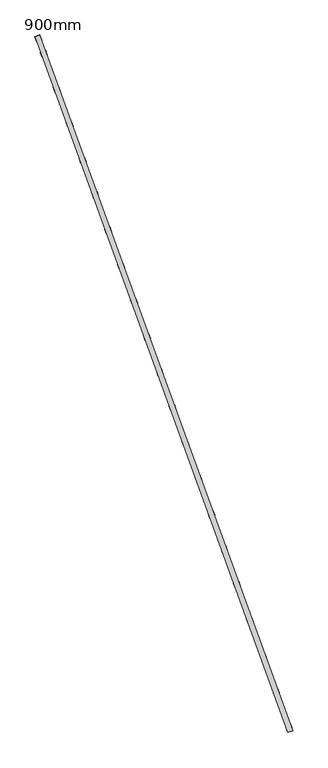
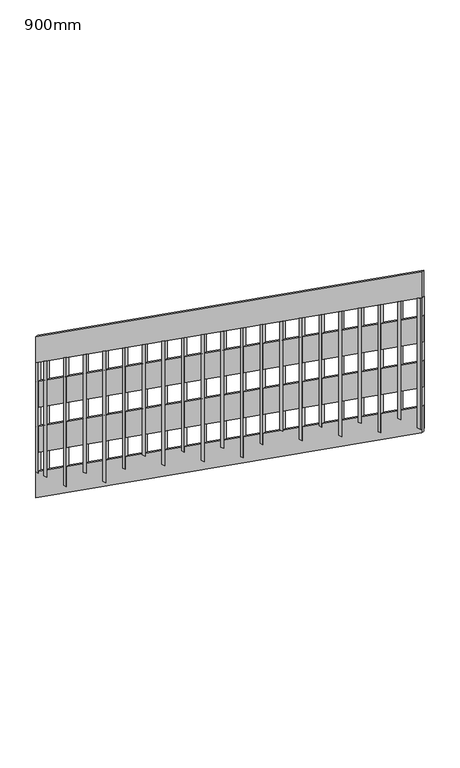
"""IFC4 building model written with IfcOpenShell, lengths in millimetres: railing geometry, 900mm."""

from ifc_helpers import new_model, si_unit, frame, origin, place, context, project, spatial, polyline, outline, extrude, source, transform, mapped, element, save


def railing_900mm_04ecc8fe(model_context):
    return source(origin(), model_context, "Body", "SweptSolid", [
        extrude(outline(polyline([(89.8763636, -148.0), (0.0, 0.0), (3217.3591656, 0.0), (3307.2355292, -147.9999999), (89.8763636, -148.0)])), frame((18723.4162084, 27110.1412206, 3308.6657613), z_axis=(0.9396926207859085, 0.3420201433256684, 0.0), x_axis=(0.29233770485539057, -0.8031912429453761, 0.519059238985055)), (0.0, 0.0, 1.0), 19.0),
        extrude(outline(polyline([(89.8763636, -148.0), (0.0, 0.0), (3217.3591656, 0.0), (3307.2355292, -147.9999999), (89.8763636, -148.0)])), frame((18723.4162084, 27110.1412206, 3008.6657613), z_axis=(0.9396926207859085, 0.3420201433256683, 0.0), x_axis=(0.2923377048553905, -0.803191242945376, 0.5190592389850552)), (0.0, 0.0, 1.0), 19.0),
        extrude(outline(polyline([(89.8763636, -148.0), (0.0, 0.0), (3217.3591656, 0.0), (3307.2355292, -147.9999999), (89.8763636, -148.0)])), frame((18723.4162084, 27110.1412206, 2708.6657613), z_axis=(0.9396926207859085, 0.3420201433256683, 0.0), x_axis=(0.2923377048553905, -0.803191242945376, 0.5190592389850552)), (0.0, 0.0, 1.0), 19.0),
        extrude(outline(polyline([(89.8763636, -148.0), (0.0, 0.0), (3217.3591656, 0.0), (3307.2355292, -147.9999999), (89.8763636, -148.0)])), frame((18723.4162084, 27110.1412206, 2408.6657613), z_axis=(0.9396926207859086, 0.3420201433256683, 0.0), x_axis=(0.2923377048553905, -0.803191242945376, 0.5190592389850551)), (0.0, 0.0, 1.0), 19.0),
        extrude(outline(polyline([(106.0727272, 0.0), (966.5203067, 0.0), (966.5203067, -20.0000001), (93.9272727, -20.0000001), (106.0727272, 0.0)])), frame((19653.241152, 24554.006282, 5066.5203067), z_axis=(0.9396926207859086, 0.34202014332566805, 0.0), x_axis=(0.0, 0.0, -1.0)), (0.0, 0.0, 1.0), 20.0),
        extrude(outline(polyline([(106.0727273, 0.0), (881.5021249, 0.0), (881.5021249, -20.0), (93.9272727, -20.0), (106.0727273, 0.0)])), frame((19605.3583319, 24685.5632489, 4981.5021249), z_axis=(0.9396926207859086, 0.34202014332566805, 0.0), x_axis=(0.0, 0.0, -1.0)), (0.0, 0.0, 1.0), 20.0),
        extrude(outline(polyline([(106.0727273, 0.0), (948.3021249, 0.0), (948.3021249, -20.0), (93.9272727, -20.0), (106.0727273, 0.0)])), frame((19557.4755118, 24817.1202158, 4896.4839431), z_axis=(0.9396926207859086, 0.34202014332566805, 0.0), x_axis=(0.0, 0.0, -1.0)), (0.0, 0.0, 1.0), 20.0),
        extrude(outline(polyline([(106.0727273, 0.0), (863.2839431, 0.0), (863.2839431, -20.0), (93.9272728, -20.0), (106.0727273, 0.0)])), frame((19509.5926918, 24948.6771827, 4811.4657613), z_axis=(0.9396926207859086, 0.34202014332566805, 0.0), x_axis=(0.0, 0.0, -1.0)), (0.0, 0.0, 1.0), 20.0),
        extrude(outline(polyline([(106.0727273, 0.0), (930.0839431, 0.0), (930.0839431, -20.0), (93.9272728, -20.0), (106.0727273, 0.0)])), frame((19461.7098717, 25080.2341496, 4726.4475795), z_axis=(0.9396926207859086, 0.34202014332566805, 0.0), x_axis=(0.0, 0.0, -1.0)), (0.0, 0.0, 1.0), 20.0),
        extrude(outline(polyline([(106.0727272, 0.0), (845.0657612, 0.0), (845.0657612, -20.0), (93.9272727, -20.0), (106.0727272, 0.0)])), frame((19413.8270516, 25211.7911165, 4641.4293976), z_axis=(0.9396926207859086, 0.34202014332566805, 0.0), x_axis=(0.0, 0.0, -1.0)), (0.0, 0.0, 1.0), 20.0),
        extrude(outline(polyline([(106.0727273, 0.0), (911.8657613, 0.0), (911.8657613, -20.0), (93.9272727, -20.0), (106.0727273, 0.0)])), frame((19365.9442316, 25343.3480834, 4556.4112158), z_axis=(0.9396926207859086, 0.34202014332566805, 0.0), x_axis=(0.0, 0.0, -1.0)), (0.0, 0.0, 1.0), 20.0),
        extrude(outline(polyline([(106.0727273, 0.0), (826.8475795, 0.0), (826.8475795, -20.0), (93.9272727, -20.0), (106.0727273, 0.0)])), frame((19318.0614115, 25474.9050503, 4471.393034), z_axis=(0.9396926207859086, 0.34202014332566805, 0.0), x_axis=(0.0, 0.0, -1.0)), (0.0, 0.0, 1.0), 20.0),
        extrude(outline(polyline([(106.0727273, 0.0), (893.6475795, 0.0), (893.6475795, -20.0), (93.9272727, -20.0), (106.0727273, 0.0)])), frame((19270.1785914, 25606.4620172, 4386.3748522), z_axis=(0.9396926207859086, 0.34202014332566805, 0.0), x_axis=(0.0, 0.0, -1.0)), (0.0, 0.0, 1.0), 20.0),
        extrude(outline(polyline([(106.0727273, 0.0), (960.4475795, 0.0), (960.4475795, -20.0), (93.9272728, -20.0), (106.0727273, 0.0)])), frame((19222.2957714, 25738.0189841, 4301.3566704), z_axis=(0.9396926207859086, 0.34202014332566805, 0.0), x_axis=(0.0, 0.0, -1.0)), (0.0, 0.0, 1.0), 20.0),
        extrude(outline(polyline([(106.0727272, 0.0), (875.4293976, 0.0), (875.4293976, -20.0000001), (93.9272727, -20.0000001), (106.0727272, 0.0)])), frame((19174.4129513, 25869.5759511, 4216.3384885), z_axis=(0.9396926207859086, 0.34202014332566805, 0.0), x_axis=(0.0, 0.0, -1.0)), (0.0, 0.0, 1.0), 20.0),
        extrude(outline(polyline([(106.0727272, 0.0), (942.2293976, 0.0), (942.2293976, -20.0), (93.9272727, -20.0), (106.0727272, 0.0)])), frame((19126.5301312, 26001.132918, 4131.3203067), z_axis=(0.9396926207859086, 0.34202014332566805, 0.0), x_axis=(0.0, 0.0, -1.0)), (0.0, 0.0, 1.0), 20.0),
        extrude(outline(polyline([(106.0727273, 0.0), (857.2112158, 0.0), (857.2112158, -20.0), (93.9272727, -20.0), (106.0727273, 0.0)])), frame((19078.6473112, 26132.6898849, 4046.3021249), z_axis=(0.9396926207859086, 0.34202014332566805, 0.0), x_axis=(0.0, 0.0, -1.0)), (0.0, 0.0, 1.0), 20.0),
        extrude(outline(polyline([(106.0727273, 0.0), (924.0112158, 0.0), (924.0112158, -20.0), (93.9272727, -20.0), (106.0727273, 0.0)])), frame((19030.7644911, 26264.2468518, 3961.2839431), z_axis=(0.9396926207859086, 0.34202014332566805, 0.0), x_axis=(0.0, 0.0, -1.0)), (0.0, 0.0, 1.0), 20.0),
        extrude(outline(polyline([(106.0727273, 0.0), (838.993034, 0.0), (838.993034, -20.0), (93.9272728, -20.0), (106.0727273, 0.0)])), frame((18982.8816711, 26395.8038187, 3876.2657613), z_axis=(0.9396926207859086, 0.34202014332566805, 0.0), x_axis=(0.0, 0.0, -1.0)), (0.0, 0.0, 1.0), 20.0),
        extrude(outline(polyline([(106.0727273, 0.0), (905.793034, 0.0), (905.793034, -20.0), (93.9272728, -20.0), (106.0727273, 0.0)])), frame((18934.998851, 26527.3607856, 3791.2475795), z_axis=(0.9396926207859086, 0.34202014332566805, 0.0), x_axis=(0.0, 0.0, -1.0)), (0.0, 0.0, 1.0), 20.0),
        extrude(outline(polyline([(106.0727272, 0.0), (972.593034, 0.0), (972.593034, -20.0), (93.9272727, -20.0), (106.0727272, 0.0)])), frame((18887.1160309, 26658.9177525, 3706.2293976), z_axis=(0.9396926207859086, 0.34202014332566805, 0.0), x_axis=(0.0, 0.0, -1.0)), (0.0, 0.0, 1.0), 20.0),
        extrude(outline(polyline([(106.0727273, 0.0), (887.5748522, 0.0), (887.5748522, -20.0), (93.9272727, -20.0), (106.0727273, 0.0)])), frame((18839.2332109, 26790.4747194, 3621.2112158), z_axis=(0.9396926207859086, 0.34202014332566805, 0.0), x_axis=(0.0, 0.0, -1.0)), (0.0, 0.0, 1.0), 20.0),
        extrude(outline(polyline([(106.0727273, 0.0), (954.3748522, 0.0), (954.3748522, -20.0), (93.9272727, -20.0), (106.0727273, 0.0)])), frame((18791.3503908, 26922.0316863, 3536.193034), z_axis=(0.9396926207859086, 0.34202014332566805, 0.0), x_axis=(0.0, 0.0, -1.0)), (0.0, 0.0, 1.0), 20.0),
        extrude(outline(polyline([(106.0727273, 0.0), (869.3566704, 0.0), (869.3566704, -20.0), (93.9272727, -20.0), (106.0727273, 0.0)])), frame((18743.4675707, 27053.5886532, 3451.1748522), z_axis=(0.9396926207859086, 0.34202014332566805, 0.0), x_axis=(0.0, 0.0, -1.0)), (0.0, 0.0, 1.0), 20.0),
        extrude(outline(polyline([(106.0727273, 0.0), (972.593034, 0.0), (972.593034, -20.0000001), (93.9272727, -20.0000001), (106.0727273, 0.0)])), frame((19656.6613534, 24544.6093558, 5072.593034), z_axis=(0.9396926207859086, 0.34202014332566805, 0.0), x_axis=(0.0, 0.0, -1.0)), (0.0, 0.0, 1.0), 20.0),
        extrude(outline(polyline([(106.0727272, 0.0), (832.9203067, 0.0), (832.9203067, -20.0), (93.9272727, -20.0), (106.0727272, 0.0)])), frame((18722.9463621, 27109.9702105, 3414.7384885), z_axis=(0.9396926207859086, 0.34202014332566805, 0.0), x_axis=(0.0, 0.0, -1.0)), (0.0, 0.0, 1.0), 20.0),
    ])


if __name__ == "__main__":
    model = new_model("IFC4")
    model_context = context("Model", 3, world=origin())
    ifc_project = project(units=[si_unit("LENGTHUNIT", "METRE", prefix="MILLI")], contexts=[model_context])
    site = spatial("IfcSite", under=ifc_project)
    building = spatial("IfcBuilding", under=site)
    placement = place(None, origin())
    railing_900mm_shape = railing_900mm_04ecc8fe(model_context)
    element("IfcRailing", 1, ObjectType="900mm", at=placement, inside=building, context=model_context, shape_type="MappedRepresentation", body=[
        mapped(railing_900mm_shape, transform((0.0, 0.0, 0.0), x_axis=(1.0, 0.0, 0.0), y_axis=(0.0, 1.0, 0.0), z_axis=(0.0, 0.0, 1.0))),
    ])
    save(model, "model.ifc")
